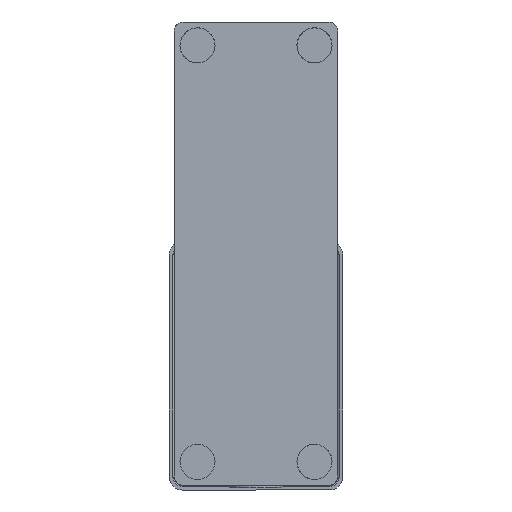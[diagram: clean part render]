
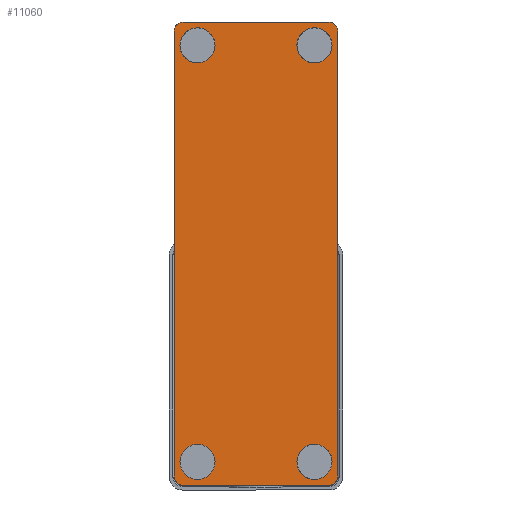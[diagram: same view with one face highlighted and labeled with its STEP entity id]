
A CAD part, front view. The second image highlights one B-rep face of the part: STEP entity #11060.
In plain terms, the highlighted planar face has unit normal (0, -1, 0).
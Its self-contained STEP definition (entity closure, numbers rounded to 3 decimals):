
#7515=CARTESIAN_POINT('',(-31.,3.5,0.));
#7516=VERTEX_POINT('',#7515);
#7524=CARTESIAN_POINT('',(31.0,3.5,0.));
#7525=VERTEX_POINT('',#7524);
#7532=CARTESIAN_POINT('',(-31.,3.5,0.));
#7533=DIRECTION('',(1.0,0.0,0.0));
#7534=VECTOR('',#7533,62.);
#7535=LINE('',#7532,#7534);
#7536=EDGE_CURVE('',#7516,#7525,#7535,.T.);
#7549=CARTESIAN_POINT('',(-31.,3.5,198.0));
#7550=VERTEX_POINT('',#7549);
#7559=CARTESIAN_POINT('',(31.,3.5,198.0));
#7560=VERTEX_POINT('',#7559);
#7561=CARTESIAN_POINT('',(-31.,3.5,198.0));
#7562=DIRECTION('',(1.0,0.0,0.0));
#7563=VECTOR('',#7562,62.);
#7564=LINE('',#7561,#7563);
#7565=EDGE_CURVE('',#7550,#7560,#7564,.T.);
#8850=CARTESIAN_POINT('',(35.,3.5,194.));
#8851=VERTEX_POINT('',#8850);
#8852=CARTESIAN_POINT('',(31.,3.5,194.));
#8853=DIRECTION('',(0.0,1.0,0.0));
#8854=DIRECTION('',(0.707,0.0,0.707));
#8855=AXIS2_PLACEMENT_3D('',#8852,#8853,#8854);
#8856=CIRCLE('',#8855,4.0);
#8857=EDGE_CURVE('',#7560,#8851,#8856,.T.);
#8895=CARTESIAN_POINT('',(-35.,3.5,194.));
#8896=VERTEX_POINT('',#8895);
#8897=CARTESIAN_POINT('',(-31.,3.5,194.));
#8898=DIRECTION('',(0.0,1.0,0.0));
#8899=DIRECTION('',(-0.707,0.0,0.707));
#8900=AXIS2_PLACEMENT_3D('',#8897,#8898,#8899);
#8901=CIRCLE('',#8900,4.0);
#8902=EDGE_CURVE('',#8896,#7550,#8901,.T.);
#8994=CARTESIAN_POINT('',(35.,3.5,4.));
#8995=VERTEX_POINT('',#8994);
#8996=CARTESIAN_POINT('',(35.,3.5,4.));
#8997=DIRECTION('',(0.0,0.0,1.0));
#8998=VECTOR('',#8997,190.);
#8999=LINE('',#8996,#8998);
#9000=EDGE_CURVE('',#8995,#8851,#8999,.T.);
#9047=CARTESIAN_POINT('',(31.0,3.5,4.));
#9048=DIRECTION('',(0.0,1.0,0.0));
#9049=DIRECTION('',(0.707,0.0,-0.707));
#9050=AXIS2_PLACEMENT_3D('',#9047,#9048,#9049);
#9051=CIRCLE('',#9050,4.0);
#9052=EDGE_CURVE('',#8995,#7525,#9051,.T.);
#9074=CARTESIAN_POINT('',(-35.,3.5,4.));
#9075=VERTEX_POINT('',#9074);
#9082=CARTESIAN_POINT('',(-35.,3.5,194.));
#9083=DIRECTION('',(0.0,0.0,-1.0));
#9084=VECTOR('',#9083,190.);
#9085=LINE('',#9082,#9084);
#9086=EDGE_CURVE('',#8896,#9075,#9085,.T.);
#9146=CARTESIAN_POINT('',(-31.,3.5,4.));
#9147=DIRECTION('',(0.0,1.0,0.0));
#9148=DIRECTION('',(-0.707,0.0,-0.707));
#9149=AXIS2_PLACEMENT_3D('',#9146,#9147,#9148);
#9150=CIRCLE('',#9149,4.0);
#9151=EDGE_CURVE('',#7516,#9075,#9150,.T.);
#11001=CARTESIAN_POINT('',(0.,3.5,61.433));
#11002=DIRECTION('',(0.0,-1.0,0.0));
#11003=DIRECTION('',(0.0,0.0,-1.0));
#11004=AXIS2_PLACEMENT_3D('',#11001,#11002,#11003);
#11005=PLANE('',#11004);
#11006=ORIENTED_EDGE('',*,*,#9151,.F.);
#11007=ORIENTED_EDGE('',*,*,#7536,.T.);
#11008=ORIENTED_EDGE('',*,*,#9052,.F.);
#11009=ORIENTED_EDGE('',*,*,#9000,.T.);
#11010=ORIENTED_EDGE('',*,*,#8857,.F.);
#11011=ORIENTED_EDGE('',*,*,#7565,.F.);
#11012=ORIENTED_EDGE('',*,*,#8902,.F.);
#11013=ORIENTED_EDGE('',*,*,#9086,.T.);
#11014=EDGE_LOOP('',(#11006,#11007,#11008,#11009,#11010,#11011,#11012,#11013));
#11015=FACE_OUTER_BOUND('',#11014,.T.);
#11016=CARTESIAN_POINT('',(-31.573,3.5,184.389));
#11017=VERTEX_POINT('',#11016);
#11018=CARTESIAN_POINT('',(-25.,3.5,188.0));
#11019=DIRECTION('',(0.0,-1.0,0.0));
#11020=DIRECTION('',(0.876,0.0,0.482));
#11021=AXIS2_PLACEMENT_3D('',#11018,#11019,#11020);
#11022=CIRCLE('',#11021,7.5);
#11023=EDGE_CURVE('',#11017,#11017,#11022,.T.);
#11024=ORIENTED_EDGE('',*,*,#11023,.F.);
#11025=EDGE_LOOP('',(#11024));
#11026=FACE_BOUND('',#11025,.T.);
#11027=CARTESIAN_POINT('',(18.431,3.5,6.38));
#11028=VERTEX_POINT('',#11027);
#11029=CARTESIAN_POINT('',(25.,3.5,10.));
#11030=DIRECTION('',(0.0,-1.0,0.0));
#11031=DIRECTION('',(0.876,0.0,0.483));
#11032=AXIS2_PLACEMENT_3D('',#11029,#11030,#11031);
#11033=CIRCLE('',#11032,7.5);
#11034=EDGE_CURVE('',#11028,#11028,#11033,.T.);
#11035=ORIENTED_EDGE('',*,*,#11034,.F.);
#11036=EDGE_LOOP('',(#11035));
#11037=FACE_BOUND('',#11036,.T.);
#11038=CARTESIAN_POINT('',(18.258,3.5,184.714));
#11039=VERTEX_POINT('',#11038);
#11040=CARTESIAN_POINT('',(25.,3.5,188.0));
#11041=DIRECTION('',(0.0,-1.0,0.0));
#11042=DIRECTION('',(0.899,0.0,0.438));
#11043=AXIS2_PLACEMENT_3D('',#11040,#11041,#11042);
#11044=CIRCLE('',#11043,7.5);
#11045=EDGE_CURVE('',#11039,#11039,#11044,.T.);
#11046=ORIENTED_EDGE('',*,*,#11045,.F.);
#11047=EDGE_LOOP('',(#11046));
#11048=FACE_BOUND('',#11047,.T.);
#11049=CARTESIAN_POINT('',(-31.485,3.5,6.232));
#11050=VERTEX_POINT('',#11049);
#11051=CARTESIAN_POINT('',(-25.,3.5,10.0));
#11052=DIRECTION('',(0.0,-1.0,0.0));
#11053=DIRECTION('',(0.865,0.0,0.502));
#11054=AXIS2_PLACEMENT_3D('',#11051,#11052,#11053);
#11055=CIRCLE('',#11054,7.5);
#11056=EDGE_CURVE('',#11050,#11050,#11055,.T.);
#11057=ORIENTED_EDGE('',*,*,#11056,.F.);
#11058=EDGE_LOOP('',(#11057));
#11059=FACE_BOUND('',#11058,.T.);
#11060=ADVANCED_FACE('',(#11015,#11026,#11037,#11048,#11059),#11005,.T.);
